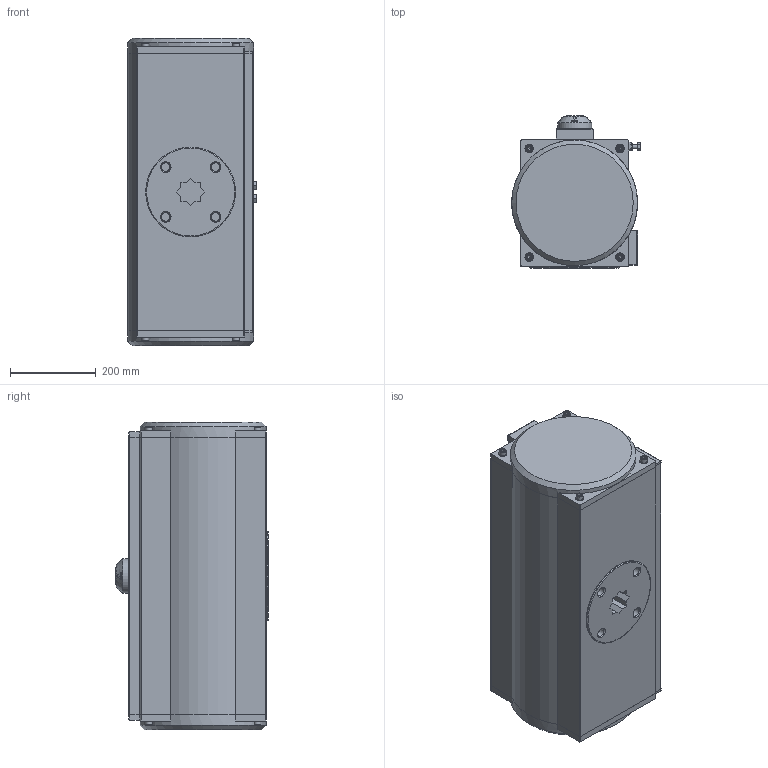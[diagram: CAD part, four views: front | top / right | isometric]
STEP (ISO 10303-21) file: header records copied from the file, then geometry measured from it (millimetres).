
FILE_DESCRIPTION(('STEP AP242'), '1');
FILE_NAME('PA-DA-270 砅槻斁瀔魤鍱 DN.ru', '2026-04-17T23:44:43', ('DN.ru'), (''), 'C3D Converter', 'C3D Toolkit', '');
FILE_SCHEMA(('AP242_MANAGED_MODEL_BASED_3D_ENGINEERING_MIM_LF { 1 0 10303 442 1 1 4 }'));
Length unit declared in the file: millimetre
Products named in the file (1): PA-DA-270
Bounding box: 300.4 x 356 x 718 mm (x, y, z)
Volume: 58663830.1 mm3; surface area: 1256621 mm2
Topology: 1 solids, 4 shells, 1002 faces, 2620 edges, 1707 vertices
Faces by surface type: plane 448, extrusion 347, cylinder 108, cone 87, torus 12
Full cylindrical faces by diameter (mm): 5 x4, 6 x4, 8 x9, 9.989 x2, 10 x20, 16 x8, 20 x12, 80 x1, 190 x2, 210 x1, 294 x2
Entity records: 59402 total; most frequent: CARTESIAN_POINT 29070, ORIENTED_EDGE 4952, DIRECTION 3378, EDGE_CURVE 2476, VERTEX_POINT 1691, B_SPLINE_CURVE_WITH_KNOTS 1421, VECTOR 1416, EDGE_LOOP 1231
